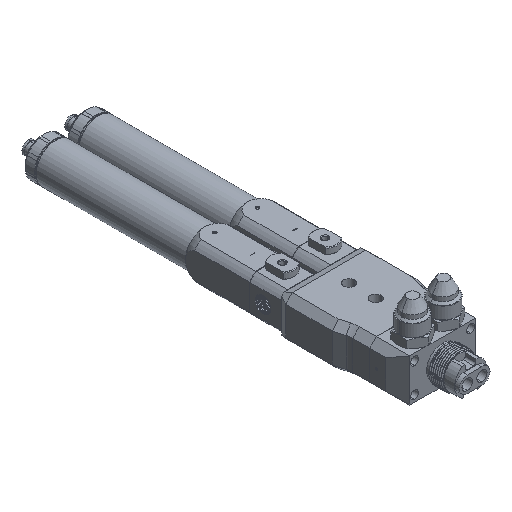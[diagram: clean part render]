
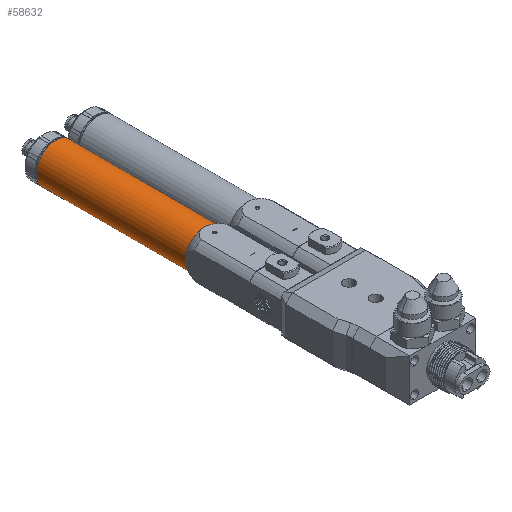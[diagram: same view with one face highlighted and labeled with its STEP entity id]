
A CAD part, isometric view. The second image highlights one B-rep face of the part: STEP entity #58632.
In plain terms, the highlighted cylindrical face has radius 14.5 mm (diameter 29 mm), a full revolution.
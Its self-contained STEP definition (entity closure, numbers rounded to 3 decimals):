
#2305 = ORIENTED_EDGE ( 'NONE', *, *, #18781, .T. ) ;
#2569 = VERTEX_POINT ( 'NONE', #19985 ) ;
#2987 = CARTESIAN_POINT ( 'NONE',  ( -10.38, 147.404, 1001.603 ) ) ;
#3096 = CARTESIAN_POINT ( 'NONE',  ( -10.38, 147.404, 987.103 ) ) ;
#4058 = DIRECTION ( 'NONE',  ( 0., -1., 0. ) ) ;
#4433 = AXIS2_PLACEMENT_3D ( 'NONE', #20530, #41043, #46599 ) ;
#6060 = CIRCLE ( 'NONE', #43775, 14.5 ) ;
#6129 = AXIS2_PLACEMENT_3D ( 'NONE', #58948, #10644, #21060 ) ;
#6724 = CARTESIAN_POINT ( 'NONE',  ( -10.38, 35.604, 987.103 ) ) ;
#7243 = EDGE_CURVE ( 'NONE', #2569, #57333, #17237, .T. ) ;
#7872 = VERTEX_POINT ( 'NONE', #65209 ) ;
#9417 = CYLINDRICAL_SURFACE ( 'NONE', #4433, 14.5 ) ;
#9759 = FACE_OUTER_BOUND ( 'NONE', #30263, .T. ) ;
#10601 = DIRECTION ( 'NONE',  ( 0., 0., -1. ) ) ;
#10644 = DIRECTION ( 'NONE',  ( 0., 1., 0. ) ) ;
#13546 = AXIS2_PLACEMENT_3D ( 'NONE', #63578, #36437, #63235 ) ;
#17237 = CIRCLE ( 'NONE', #6129, 14.5 ) ;
#18781 = EDGE_CURVE ( 'NONE', #29117, #2569, #25530, .T. ) ;
#19841 = FACE_OUTER_BOUND ( 'NONE', #44632, .T. ) ;
#19985 = CARTESIAN_POINT ( 'NONE',  ( -24.88, 35.604, 987.103 ) ) ;
#20530 = CARTESIAN_POINT ( 'NONE',  ( -10.38, 31.667, 987.103 ) ) ;
#21060 = DIRECTION ( 'NONE',  ( 0., 0., -1. ) ) ;
#23256 = DIRECTION ( 'NONE',  ( 0., 0., -1. ) ) ;
#25530 = CIRCLE ( 'NONE', #54432, 14.5 ) ;
#25781 = AXIS2_PLACEMENT_3D ( 'NONE', #35001, #4058, #61792 ) ;
#25932 = EDGE_CURVE ( 'NONE', #58247, #66398, #43559, .T. ) ;
#27905 = DIRECTION ( 'NONE',  ( 0., 1., 0. ) ) ;
#29117 = VERTEX_POINT ( 'NONE', #40325 ) ;
#30263 = EDGE_LOOP ( 'NONE', ( #33931, #64688 ) ) ;
#33289 = EDGE_CURVE ( 'NONE', #57333, #7872, #59336, .T. ) ;
#33931 = ORIENTED_EDGE ( 'NONE', *, *, #48792, .T. ) ;
#34239 = ORIENTED_EDGE ( 'NONE', *, *, #33289, .T. ) ;
#34908 = AXIS2_PLACEMENT_3D ( 'NONE', #6724, #27905, #49118 ) ;
#35001 = CARTESIAN_POINT ( 'NONE',  ( -10.38, 147.404, 987.103 ) ) ;
#36437 = DIRECTION ( 'NONE',  ( 0., 1., 0. ) ) ;
#40269 = CARTESIAN_POINT ( 'NONE',  ( -10.38, 35.604, 1001.603 ) ) ;
#40325 = CARTESIAN_POINT ( 'NONE',  ( -10.38, 35.604, 972.603 ) ) ;
#41043 = DIRECTION ( 'NONE',  ( 0., -1., 0. ) ) ;
#42565 = CARTESIAN_POINT ( 'NONE',  ( -10.38, 35.604, 987.103 ) ) ;
#43559 = CIRCLE ( 'NONE', #25781, 14.5 ) ;
#43775 = AXIS2_PLACEMENT_3D ( 'NONE', #3096, #55605, #23256 ) ;
#44632 = EDGE_LOOP ( 'NONE', ( #65840, #2305, #49775, #34239 ) ) ;
#46599 = DIRECTION ( 'NONE',  ( 0., 0., -1. ) ) ;
#48792 = EDGE_CURVE ( 'NONE', #66398, #58247, #6060, .T. ) ;
#49118 = DIRECTION ( 'NONE',  ( 0., 0., -1. ) ) ;
#49775 = ORIENTED_EDGE ( 'NONE', *, *, #7243, .T. ) ;
#54432 = AXIS2_PLACEMENT_3D ( 'NONE', #42565, #64816, #10601 ) ;
#55605 = DIRECTION ( 'NONE',  ( 0., -1., 0. ) ) ;
#57333 = VERTEX_POINT ( 'NONE', #40269 ) ;
#58247 = VERTEX_POINT ( 'NONE', #64068 ) ;
#58632 = ADVANCED_FACE ( 'NONE', ( #19841, #9759 ), #9417, .T. ) ;
#58948 = CARTESIAN_POINT ( 'NONE',  ( -10.38, 35.604, 987.103 ) ) ;
#59336 = CIRCLE ( 'NONE', #34908, 14.5 ) ;
#61792 = DIRECTION ( 'NONE',  ( 0., 0., -1. ) ) ;
#63235 = DIRECTION ( 'NONE',  ( 0., 0., -1. ) ) ;
#63578 = CARTESIAN_POINT ( 'NONE',  ( -10.38, 35.604, 987.103 ) ) ;
#64068 = CARTESIAN_POINT ( 'NONE',  ( -10.38, 147.404, 972.603 ) ) ;
#64688 = ORIENTED_EDGE ( 'NONE', *, *, #25932, .T. ) ;
#64816 = DIRECTION ( 'NONE',  ( 0., 1., 0. ) ) ;
#64966 = EDGE_CURVE ( 'NONE', #7872, #29117, #67954, .T. ) ;
#65209 = CARTESIAN_POINT ( 'NONE',  ( 4.12, 35.604, 987.103 ) ) ;
#65840 = ORIENTED_EDGE ( 'NONE', *, *, #64966, .T. ) ;
#66398 = VERTEX_POINT ( 'NONE', #2987 ) ;
#67954 = CIRCLE ( 'NONE', #13546, 14.5 ) ;
